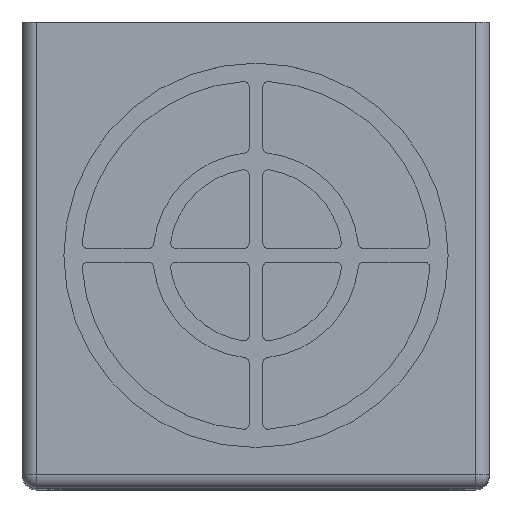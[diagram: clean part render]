
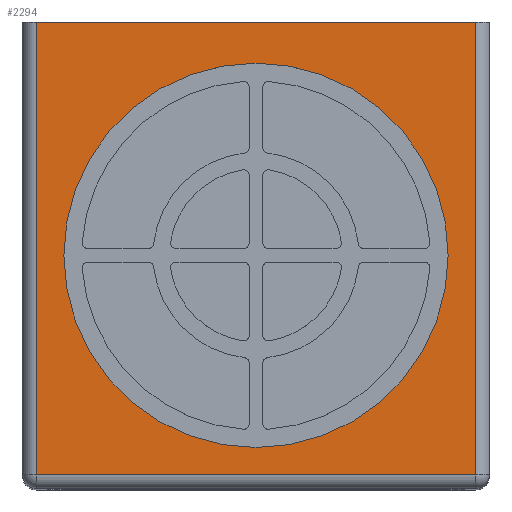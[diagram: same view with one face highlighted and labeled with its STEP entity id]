
A CAD part, top view. The second image highlights one B-rep face of the part: STEP entity #2294.
In plain terms, the highlighted planar face has unit normal (0, 0, 1).
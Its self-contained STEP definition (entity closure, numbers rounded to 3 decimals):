
#31 = EDGE_CURVE ( 'NONE', #3596, #3167, #2014, .T. ) ;
#116 = CARTESIAN_POINT ( 'NONE',  ( 0.5, -17., 28. ) ) ;
#117 = DIRECTION ( 'NONE',  ( 0., 0., 1. ) ) ;
#303 = VECTOR ( 'NONE', #1858, 1000. ) ;
#362 = LINE ( 'NONE', #2629, #858 ) ;
#372 = CARTESIAN_POINT ( 'NONE',  ( 8.5, -8.5, 28. ) ) ;
#461 = CARTESIAN_POINT ( 'NONE',  ( 0.5, -16.5, 28. ) ) ;
#552 = EDGE_CURVE ( 'NONE', #2297, #3078, #3079, .T. ) ;
#629 = DIRECTION ( 'NONE',  ( 0., 1., 0. ) ) ;
#643 = CARTESIAN_POINT ( 'NONE',  ( 16.5, 0., 28. ) ) ;
#684 = LINE ( 'NONE', #643, #3292 ) ;
#754 = CARTESIAN_POINT ( 'NONE',  ( 0., -17., 28. ) ) ;
#799 = CARTESIAN_POINT ( 'NONE',  ( 15.5, -8.5, 28. ) ) ;
#858 = VECTOR ( 'NONE', #1476, 1000. ) ;
#1145 = CARTESIAN_POINT ( 'NONE',  ( 16.5, 0., 28. ) ) ;
#1205 = DIRECTION ( 'NONE',  ( 1., 0., 0. ) ) ;
#1265 = PLANE ( 'NONE',  #3294 ) ;
#1476 = DIRECTION ( 'NONE',  ( -1., 0., 0. ) ) ;
#1497 = CARTESIAN_POINT ( 'NONE',  ( 8.5, -8.5, 28. ) ) ;
#1556 = EDGE_LOOP ( 'NONE', ( #2138, #3478 ) ) ;
#1570 = FACE_OUTER_BOUND ( 'NONE', #2552, .T. ) ;
#1747 = EDGE_CURVE ( 'NONE', #3078, #2540, #684, .T. ) ;
#1858 = DIRECTION ( 'NONE',  ( 1., 0., 0. ) ) ;
#1910 = CIRCLE ( 'NONE', #2886, 7. ) ;
#1917 = CARTESIAN_POINT ( 'NONE',  ( 17., -16.5, 28. ) ) ;
#1923 = DIRECTION ( 'NONE',  ( 0., -1., 0. ) ) ;
#1943 = ORIENTED_EDGE ( 'NONE', *, *, #2340, .T. ) ;
#2014 = CIRCLE ( 'NONE', #3713, 7. ) ;
#2138 = ORIENTED_EDGE ( 'NONE', *, *, #3559, .F. ) ;
#2172 = LINE ( 'NONE', #116, #3781 ) ;
#2294 = ADVANCED_FACE ( 'NONE', ( #2802, #1570 ), #1265, .T. ) ;
#2297 = VERTEX_POINT ( 'NONE', #461 ) ;
#2340 = EDGE_CURVE ( 'NONE', #3518, #2297, #2172, .T. ) ;
#2437 = DIRECTION ( 'NONE',  ( 1., 0., 0. ) ) ;
#2461 = ORIENTED_EDGE ( 'NONE', *, *, #2620, .T. ) ;
#2540 = VERTEX_POINT ( 'NONE', #1145 ) ;
#2552 = EDGE_LOOP ( 'NONE', ( #2461, #1943, #3212, #3388 ) ) ;
#2620 = EDGE_CURVE ( 'NONE', #2540, #3518, #362, .T. ) ;
#2629 = CARTESIAN_POINT ( 'NONE',  ( 0., 0., 28. ) ) ;
#2670 = DIRECTION ( 'NONE',  ( 0., 0., 1. ) ) ;
#2768 = CARTESIAN_POINT ( 'NONE',  ( 1.5, -8.5, 28. ) ) ;
#2802 = FACE_BOUND ( 'NONE', #1556, .T. ) ;
#2886 = AXIS2_PLACEMENT_3D ( 'NONE', #372, #117, #2437 ) ;
#2999 = CARTESIAN_POINT ( 'NONE',  ( 16.5, -16.5, 28. ) ) ;
#3043 = DIRECTION ( 'NONE',  ( 0., 0., 1. ) ) ;
#3078 = VERTEX_POINT ( 'NONE', #2999 ) ;
#3079 = LINE ( 'NONE', #1917, #303 ) ;
#3167 = VERTEX_POINT ( 'NONE', #799 ) ;
#3212 = ORIENTED_EDGE ( 'NONE', *, *, #552, .T. ) ;
#3292 = VECTOR ( 'NONE', #629, 1000. ) ;
#3294 = AXIS2_PLACEMENT_3D ( 'NONE', #754, #3043, #3615 ) ;
#3312 = CARTESIAN_POINT ( 'NONE',  ( 0.5, 0., 28. ) ) ;
#3388 = ORIENTED_EDGE ( 'NONE', *, *, #1747, .T. ) ;
#3478 = ORIENTED_EDGE ( 'NONE', *, *, #31, .F. ) ;
#3518 = VERTEX_POINT ( 'NONE', #3312 ) ;
#3559 = EDGE_CURVE ( 'NONE', #3167, #3596, #1910, .T. ) ;
#3596 = VERTEX_POINT ( 'NONE', #2768 ) ;
#3615 = DIRECTION ( 'NONE',  ( 1., 0., 0. ) ) ;
#3713 = AXIS2_PLACEMENT_3D ( 'NONE', #1497, #2670, #1205 ) ;
#3781 = VECTOR ( 'NONE', #1923, 1000. ) ;
